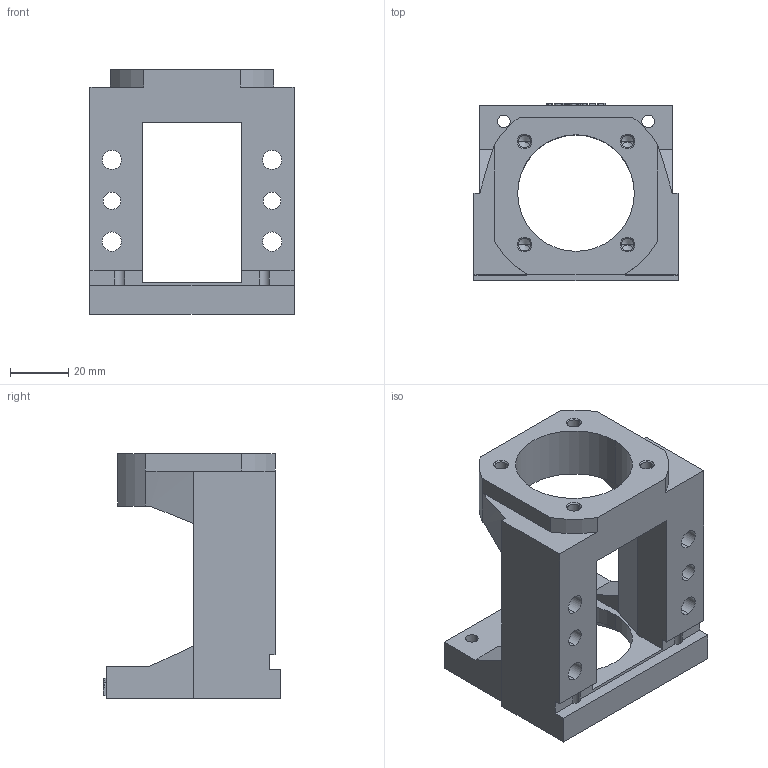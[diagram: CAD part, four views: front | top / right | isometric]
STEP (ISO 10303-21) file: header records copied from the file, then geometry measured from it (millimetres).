
FILE_DESCRIPTION((''),'2;1');
FILE_NAME('M60D-FK15-A','2020-11-11T',('Administrator'),(''),'PRO/ENGINEER BY PARAMETRIC TECHNOLOGY CORPORATION, 2010280','PRO/ENGINEER BY PARAMETRIC TECHNOLOGY CORPORATION, 2010280','');
FILE_SCHEMA(('CONFIG_CONTROL_DESIGN'));
Length unit declared in the file: millimetre
Products named in the file (1): M60D-FK15-A
Bounding box: 70 x 61 x 84 mm (x, y, z)
Volume: 108314.5 mm3; surface area: 33506.2 mm2
Topology: 1 solids, 1 shells, 240 faces, 653 edges, 421 vertices
Faces by surface type: plane 116, cylinder 52, extrusion 44, cone 28
Entity records: 8063 total; most frequent: CARTESIAN_POINT 2027, ORIENTED_EDGE 1282, DIRECTION 1122, EDGE_CURVE 641, VECTOR 460, VERTEX_POINT 421, LINE 416, AXIS2_PLACEMENT_3D 331
